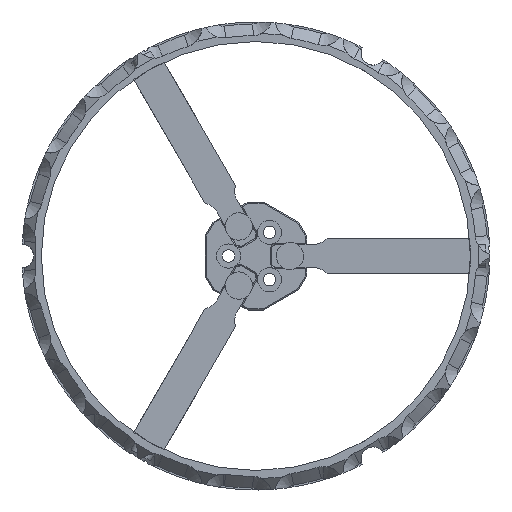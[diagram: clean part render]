
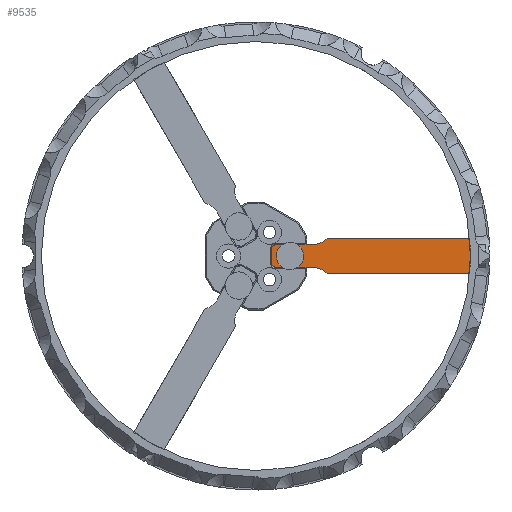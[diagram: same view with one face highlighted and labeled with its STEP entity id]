
A CAD part, front view. The second image highlights one B-rep face of the part: STEP entity #9535.
In plain terms, the highlighted planar face has unit normal (0, -1, 0) as drawn and (0, 0, 1) by its records, which use the part's own axes.
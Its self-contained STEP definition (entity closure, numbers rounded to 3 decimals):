
#21 = CIRCLE ( 'NONE', #10552, 2.15 ) ;
#536 = CARTESIAN_POINT ( 'NONE',  ( -5., -3., 0. ) ) ;
#578 = CARTESIAN_POINT ( 'NONE',  ( -55., 4.5, 0. ) ) ;
#833 = EDGE_CURVE ( 'NONE', #12934, #3921, #4051, .T. ) ;
#1042 = DIRECTION ( 'NONE',  ( -0.707, 0.707, 0. ) ) ;
#1164 = EDGE_CURVE ( 'NONE', #3921, #12934, #21, .T. ) ;
#1248 = CARTESIAN_POINT ( 'NONE',  ( -6.5, 4.5, 0. ) ) ;
#1506 = ORIENTED_EDGE ( 'NONE', *, *, #11893, .T. ) ;
#1938 = CIRCLE ( 'NONE', #12475, 5. ) ;
#2310 = DIRECTION ( 'NONE',  ( 0., 0., 1. ) ) ;
#2532 = DIRECTION ( 'NONE',  ( 1., 0., 0. ) ) ;
#2632 = DIRECTION ( 'NONE',  ( 0., 0., -1. ) ) ;
#2754 = DIRECTION ( 'NONE',  ( 0.707, 0.707, 0. ) ) ;
#2774 = CARTESIAN_POINT ( 'NONE',  ( -10.9, 0., 0. ) ) ;
#2953 = ORIENTED_EDGE ( 'NONE', *, *, #833, .F. ) ;
#3207 = EDGE_CURVE ( 'NONE', #17433, #11013, #6988, .T. ) ;
#3459 = CARTESIAN_POINT ( 'NONE',  ( -4., 2., 0. ) ) ;
#3759 = VECTOR ( 'NONE', #2754, 1000. ) ;
#3921 = VERTEX_POINT ( 'NONE', #5805 ) ;
#4051 = CIRCLE ( 'NONE', #8637, 2.15 ) ;
#4066 = LINE ( 'NONE', #1248, #4975 ) ;
#4118 = DIRECTION ( 'NONE',  ( 0., 0., -1. ) ) ;
#4197 = CARTESIAN_POINT ( 'NONE',  ( -55., -4.5, 0. ) ) ;
#4323 = LINE ( 'NONE', #10583, #3759 ) ;
#4360 = CARTESIAN_POINT ( 'NONE',  ( -14.697, -3., 0. ) ) ;
#4455 = AXIS2_PLACEMENT_3D ( 'NONE', #14494, #9439, #15643 ) ;
#4768 = VECTOR ( 'NONE', #8790, 1000. ) ;
#4975 = VECTOR ( 'NONE', #1042, 1000. ) ;
#5237 = ORIENTED_EDGE ( 'NONE', *, *, #12329, .F. ) ;
#5423 = CIRCLE ( 'NONE', #4455, 5. ) ;
#5805 = CARTESIAN_POINT ( 'NONE',  ( -6.6, 0., 0. ) ) ;
#6230 = CARTESIAN_POINT ( 'NONE',  ( -54.816, 4.5, 0. ) ) ;
#6384 = LINE ( 'NONE', #12857, #9477 ) ;
#6517 = DIRECTION ( 'NONE',  ( 1., 0., 0. ) ) ;
#6523 = VECTOR ( 'NONE', #6785, 1000. ) ;
#6785 = DIRECTION ( 'NONE',  ( 1., 0., 0. ) ) ;
#6988 = LINE ( 'NONE', #578, #6523 ) ;
#7270 = CARTESIAN_POINT ( 'NONE',  ( -8.75, 0., 0. ) ) ;
#7965 = ORIENTED_EDGE ( 'NONE', *, *, #11789, .T. ) ;
#7980 = EDGE_CURVE ( 'NONE', #14051, #11013, #1938, .T. ) ;
#8174 = EDGE_CURVE ( 'NONE', #10920, #12578, #4323, .T. ) ;
#8597 = DIRECTION ( 'NONE',  ( 1., 0., 0. ) ) ;
#8637 = AXIS2_PLACEMENT_3D ( 'NONE', #7270, #2310, #8597 ) ;
#8668 = VERTEX_POINT ( 'NONE', #3459 ) ;
#8790 = DIRECTION ( 'NONE',  ( -1., 0., 0. ) ) ;
#8832 = DIRECTION ( 'NONE',  ( -1., 0., 0. ) ) ;
#8919 = FACE_BOUND ( 'NONE', #12974, .T. ) ;
#8991 = VECTOR ( 'NONE', #12394, 1000. ) ;
#9439 = DIRECTION ( 'NONE',  ( 0., 0., -1. ) ) ;
#9477 = VECTOR ( 'NONE', #18862, 1000. ) ;
#9535 = ADVANCED_FACE ( 'NONE', ( #8919, #16778 ), #18314, .F. ) ;
#9796 = EDGE_CURVE ( 'NONE', #19171, #14051, #11690, .T. ) ;
#10022 = ORIENTED_EDGE ( 'NONE', *, *, #9796, .T. ) ;
#10093 = CARTESIAN_POINT ( 'NONE',  ( -14.697, 3., 0. ) ) ;
#10145 = DIRECTION ( 'NONE',  ( -1., 0., 0. ) ) ;
#10552 = AXIS2_PLACEMENT_3D ( 'NONE', #16616, #13703, #15048 ) ;
#10583 = CARTESIAN_POINT ( 'NONE',  ( -4., -2., 0. ) ) ;
#10920 = VERTEX_POINT ( 'NONE', #536 ) ;
#11013 = VERTEX_POINT ( 'NONE', #18094 ) ;
#11260 = LINE ( 'NONE', #14156, #8991 ) ;
#11690 = LINE ( 'NONE', #19742, #4768 ) ;
#11789 = EDGE_CURVE ( 'NONE', #17856, #20087, #17091, .T. ) ;
#11893 = EDGE_CURVE ( 'NONE', #20087, #16546, #5423, .T. ) ;
#12329 = EDGE_CURVE ( 'NONE', #10920, #16546, #11260, .T. ) ;
#12394 = DIRECTION ( 'NONE',  ( -1., 0., 0. ) ) ;
#12475 = AXIS2_PLACEMENT_3D ( 'NONE', #14826, #4118, #8832 ) ;
#12578 = VERTEX_POINT ( 'NONE', #15485 ) ;
#12857 = CARTESIAN_POINT ( 'NONE',  ( -4., 4.5, 0. ) ) ;
#12934 = VERTEX_POINT ( 'NONE', #2774 ) ;
#12974 = EDGE_LOOP ( 'NONE', ( #20264, #2953 ) ) ;
#13479 = ORIENTED_EDGE ( 'NONE', *, *, #19898, .T. ) ;
#13703 = DIRECTION ( 'NONE',  ( 0., 0., 1. ) ) ;
#14051 = VERTEX_POINT ( 'NONE', #10093 ) ;
#14156 = CARTESIAN_POINT ( 'NONE',  ( 0., -3., 0. ) ) ;
#14251 = CARTESIAN_POINT ( 'NONE',  ( 0., 0., 0. ) ) ;
#14360 = DIRECTION ( 'NONE',  ( 0., 0., 1. ) ) ;
#14494 = CARTESIAN_POINT ( 'NONE',  ( -14.697, -8., 0. ) ) ;
#14826 = CARTESIAN_POINT ( 'NONE',  ( -14.697, 8., 0. ) ) ;
#15048 = DIRECTION ( 'NONE',  ( 1., 0., 0. ) ) ;
#15301 = VECTOR ( 'NONE', #2532, 1000. ) ;
#15461 = EDGE_LOOP ( 'NONE', ( #10022, #16941, #17413, #17552, #7965, #1506, #5237, #17848, #16599, #13479 ) ) ;
#15485 = CARTESIAN_POINT ( 'NONE',  ( -4., -2., 0. ) ) ;
#15643 = DIRECTION ( 'NONE',  ( 1., 0., 0. ) ) ;
#15982 = CARTESIAN_POINT ( 'NONE',  ( -54.816, -4.5, 0. ) ) ;
#16546 = VERTEX_POINT ( 'NONE', #4360 ) ;
#16599 = ORIENTED_EDGE ( 'NONE', *, *, #17878, .F. ) ;
#16616 = CARTESIAN_POINT ( 'NONE',  ( -8.75, 0., 0. ) ) ;
#16778 = FACE_OUTER_BOUND ( 'NONE', #15461, .T. ) ;
#16941 = ORIENTED_EDGE ( 'NONE', *, *, #7980, .T. ) ;
#17091 = LINE ( 'NONE', #4197, #15301 ) ;
#17413 = ORIENTED_EDGE ( 'NONE', *, *, #3207, .F. ) ;
#17433 = VERTEX_POINT ( 'NONE', #6230 ) ;
#17552 = ORIENTED_EDGE ( 'NONE', *, *, #20023, .T. ) ;
#17580 = AXIS2_PLACEMENT_3D ( 'NONE', #19861, #2632, #10145 ) ;
#17848 = ORIENTED_EDGE ( 'NONE', *, *, #8174, .T. ) ;
#17856 = VERTEX_POINT ( 'NONE', #15982 ) ;
#17878 = EDGE_CURVE ( 'NONE', #8668, #12578, #6384, .T. ) ;
#18094 = CARTESIAN_POINT ( 'NONE',  ( -18.268, 4.5, 0. ) ) ;
#18314 = PLANE ( 'NONE',  #17580 ) ;
#18862 = DIRECTION ( 'NONE',  ( 0., -1., 0. ) ) ;
#19096 = CARTESIAN_POINT ( 'NONE',  ( -18.268, -4.5, 0. ) ) ;
#19171 = VERTEX_POINT ( 'NONE', #20010 ) ;
#19450 = AXIS2_PLACEMENT_3D ( 'NONE', #14251, #14360, #6517 ) ;
#19742 = CARTESIAN_POINT ( 'NONE',  ( 0., 3., 0. ) ) ;
#19861 = CARTESIAN_POINT ( 'NONE',  ( -55., 4.5, 0. ) ) ;
#19898 = EDGE_CURVE ( 'NONE', #8668, #19171, #4066, .T. ) ;
#20010 = CARTESIAN_POINT ( 'NONE',  ( -5., 3., 0. ) ) ;
#20023 = EDGE_CURVE ( 'NONE', #17433, #17856, #20115, .T. ) ;
#20087 = VERTEX_POINT ( 'NONE', #19096 ) ;
#20115 = CIRCLE ( 'NONE', #19450, 55. ) ;
#20264 = ORIENTED_EDGE ( 'NONE', *, *, #1164, .F. ) ;
